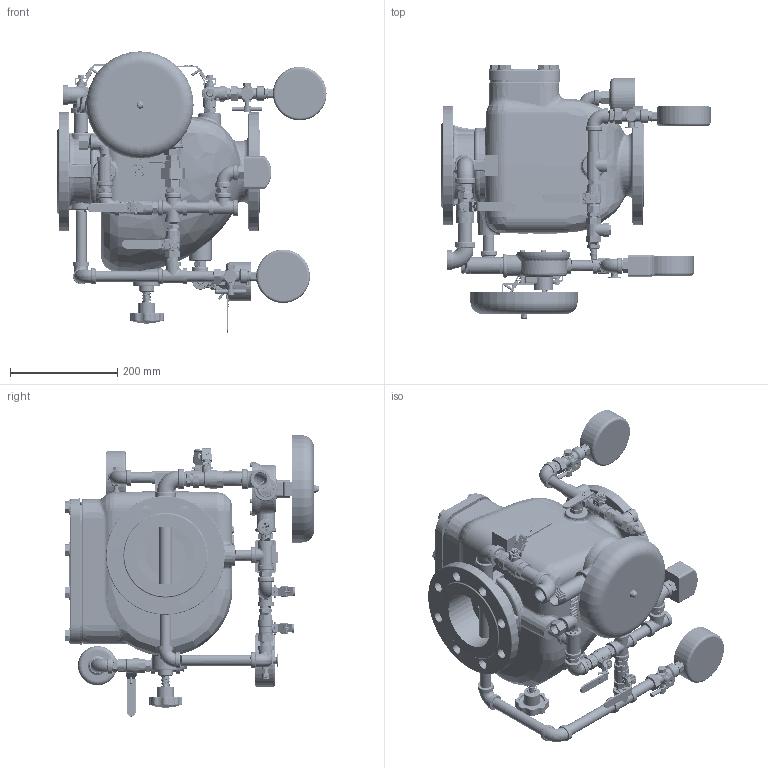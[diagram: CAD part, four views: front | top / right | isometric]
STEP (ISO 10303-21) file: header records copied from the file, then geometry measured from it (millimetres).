
FILE_DESCRIPTION((''),'2;1');
FILE_NAME('M1-DN1000001_ASM','2026-04-23T14:07:56',('administrator'),(''),'CREO PARAMETRIC BY PTC INC, 2021404','CREO PARAMETRIC BY PTC INC, 2021404','');
FILE_SCHEMA(('CONFIG_CONTROL_DESIGN'));
Products named in the file (50): 1000002; 1000003; 1000004; M1400; _X2_4F4D9500886582AF_X0_; _X2_590D4F4D9500_X0_; _X2_590D4F4D6321950064464EF6_X0; O_X2_578B5708_X0_2_65_X_D722_6; _X2_590D4F4D6321950065CB8F6C8F7; _X2_590D4F4D630994AE_X0_; _X2_5F397C27_X0_; _X2_590D4F4D9500621059577EC44EF_ASM; 0001; 0003; 10001; 0016; 0004; _X2_5B9E4F53_X0_1-1273; _X2_5B9E4F53_X0_2-1274; _X2_5B9E4F53_X0_3-1275; _X2_5B9E4F53_X0_4-1276; _00_ASM; G5000; 0020; 0021; 0019; G7000; 0006; 1000001; G15000; G13000; G6000; 001; 002; 0002; 0008; 0022; G9000; 0023; 0009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
Assembly tree (92 placements, depth 3):
  M1-DN1000001_ASM
    1000002
    1000003
    1000004
    M1400  x8
    M1400  x8
    _X2_590D4F4D9500621059577EC44EF_ASM
      _X2_4F4D9500886582AF_X0_
      _X2_590D4F4D9500_X0_
      _X2_590D4F4D6321950064464EF6_X0
      O_X2_578B5708_X0_2_65_X_D722_6  x2
      _X2_590D4F4D6321950065CB8F6C8F7
      _X2_590D4F4D630994AE_X0_
      _X2_5F397C27_X0_
    0001  x14
    0003  x4
    10001
    0016  x2
    0004  x6
    _00_ASM
      _X2_5B9E4F53_X0_1-1273
      _X2_5B9E4F53_X0_2-1274
      _X2_5B9E4F53_X0_3-1275
      _X2_5B9E4F53_X0_4-1276
    G5000
    0020
    0021
    0019
    G7000
    0006  x2
    1000001  x2
    G15000  x2
    G13000
    G6000  x2
    001
    002
    0002
    0008
    0022
    G9000
    0023  x2
    0009
    0010
    _0001
    T0001
    0024
    G6000  x2
    0025
    _0004
    _DN1000001
Bounding box: 502 x 474.9 x 524.89 mm (x, y, z)
Volume: 6678721.2 mm3; surface area: 2329323.4 mm2
Topology: 92 solids, 105 shells, 11680 faces, 30575 edges, 19508 vertices
Faces by surface type: plane 4792, cylinder 2401, bspline 2031, cone 1319, torus 759, extrusion 232, sphere 146
Entity records: 386809 total; most frequent: CARTESIAN_POINT 182549, ORIENTED_EDGE 45098, DIRECTION 37822, EDGE_CURVE 22561, VERTEX_POINT 14403, VECTOR 13458, LINE 13335, AXIS2_PLACEMENT_3D 12182
